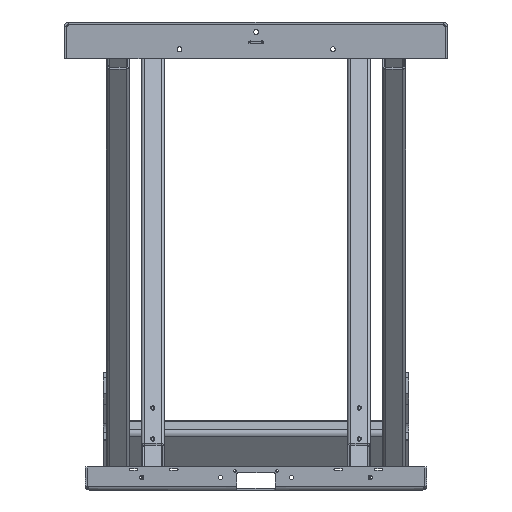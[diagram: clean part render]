
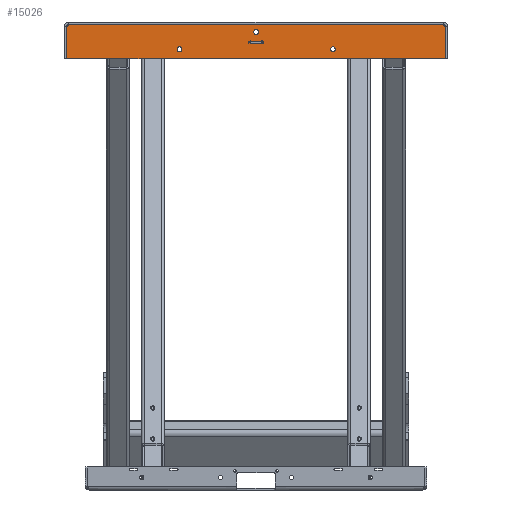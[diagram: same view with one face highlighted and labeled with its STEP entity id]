
A CAD part, front view. The second image highlights one B-rep face of the part: STEP entity #15026.
In plain terms, the highlighted planar face has unit normal (0, -1, 0) as drawn and (0, 0, 1) by its records, which use the part's own axes.
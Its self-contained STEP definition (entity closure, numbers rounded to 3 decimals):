
#661=PLANE('',#16513);
#1870=LINE('',#25478,#3164);
#1875=LINE('',#25491,#3169);
#1880=LINE('',#25507,#3174);
#1884=LINE('',#25523,#3178);
#1885=LINE('',#25536,#3179);
#1889=LINE('',#25542,#3183);
#1890=LINE('',#25545,#3184);
#1893=LINE('',#25550,#3187);
#1894=LINE('',#25553,#3188);
#1896=LINE('',#25556,#3190);
#3164=VECTOR('',#20575,2.736);
#3169=VECTOR('',#20590,2.736);
#3174=VECTOR('',#20609,26.636);
#3178=VECTOR('',#20631,26.636);
#3179=VECTOR('',#20646,11.314);
#3183=VECTOR('',#20652,971.);
#3184=VECTOR('',#20655,11.314);
#3187=VECTOR('',#20660,82.);
#3188=VECTOR('',#20663,82.);
#3190=VECTOR('',#20667,987.);
#3538=FACE_BOUND('',#5303,.T.);
#3539=FACE_BOUND('',#5304,.T.);
#3540=FACE_BOUND('',#5305,.T.);
#3541=FACE_BOUND('',#5306,.T.);
#4267=FACE_OUTER_BOUND('',#5302,.T.);
#5302=EDGE_LOOP('',(#13537,#13538,#13539,#13540,#13541,#13542));
#5303=EDGE_LOOP('',(#13543,#13544,#13545,#13546,#13547,#13548,#13549,#13550,
#13551,#13552,#13553,#13554,#13555,#13556,#13557,#13558));
#5304=EDGE_LOOP('',(#13559));
#5305=EDGE_LOOP('',(#13560));
#5306=EDGE_LOOP('',(#13561));
#6073=CIRCLE('',#16458,1.);
#6076=CIRCLE('',#16462,1.);
#6090=CIRCLE('',#16478,1.);
#6091=CIRCLE('',#16481,1.);
#6092=CIRCLE('',#16483,1.);
#6093=CIRCLE('',#16486,1.);
#6094=CIRCLE('',#16488,1.);
#6095=CIRCLE('',#16490,1.);
#6096=CIRCLE('',#16493,1.);
#6097=CIRCLE('',#16495,1.);
#6098=CIRCLE('',#16497,1.);
#6099=CIRCLE('',#16499,1.);
#6100=CIRCLE('',#16502,6.25);
#6101=CIRCLE('',#16504,6.25);
#6102=CIRCLE('',#16506,6.25);
#7418=VERTEX_POINT('',#25410);
#7419=VERTEX_POINT('',#25411);
#7423=VERTEX_POINT('',#25421);
#7446=VERTEX_POINT('',#25471);
#7447=VERTEX_POINT('',#25472);
#7448=VERTEX_POINT('',#25477);
#7449=VERTEX_POINT('',#25481);
#7450=VERTEX_POINT('',#25485);
#7451=VERTEX_POINT('',#25489);
#7452=VERTEX_POINT('',#25493);
#7453=VERTEX_POINT('',#25497);
#7454=VERTEX_POINT('',#25501);
#7455=VERTEX_POINT('',#25505);
#7456=VERTEX_POINT('',#25509);
#7457=VERTEX_POINT('',#25515);
#7458=VERTEX_POINT('',#25517);
#7459=VERTEX_POINT('',#25525);
#7460=VERTEX_POINT('',#25528);
#7461=VERTEX_POINT('',#25531);
#7462=VERTEX_POINT('',#25534);
#7463=VERTEX_POINT('',#25535);
#7464=VERTEX_POINT('',#25540);
#7465=VERTEX_POINT('',#25544);
#7466=VERTEX_POINT('',#25548);
#7467=VERTEX_POINT('',#25552);
#9457=EDGE_CURVE('',#7418,#7419,#6073,.T.);
#9463=EDGE_CURVE('',#7418,#7423,#6076,.T.);
#9487=EDGE_CURVE('',#7446,#7447,#6090,.T.);
#9490=EDGE_CURVE('',#7448,#7447,#1870,.T.);
#9492=EDGE_CURVE('',#7448,#7449,#6091,.T.);
#9495=EDGE_CURVE('',#7450,#7423,#6092,.T.);
#9497=EDGE_CURVE('',#7450,#7451,#1875,.T.);
#9498=EDGE_CURVE('',#7452,#7451,#6093,.T.);
#9501=EDGE_CURVE('',#7452,#7453,#6094,.T.);
#9503=EDGE_CURVE('',#7454,#7453,#6095,.T.);
#9505=EDGE_CURVE('',#7454,#7455,#1880,.T.);
#9506=EDGE_CURVE('',#7456,#7455,#6096,.T.);
#9508=EDGE_CURVE('',#7456,#7449,#6097,.T.);
#9510=EDGE_CURVE('',#7457,#7458,#6098,.T.);
#9512=EDGE_CURVE('',#7446,#7458,#6099,.T.);
#9513=EDGE_CURVE('',#7457,#7419,#1884,.T.);
#9514=EDGE_CURVE('',#7459,#7459,#6100,.T.);
#9515=EDGE_CURVE('',#7460,#7460,#6101,.T.);
#9516=EDGE_CURVE('',#7461,#7461,#6102,.T.);
#9517=EDGE_CURVE('',#7462,#7463,#1885,.T.);
#9521=EDGE_CURVE('',#7464,#7462,#1889,.T.);
#9522=EDGE_CURVE('',#7465,#7464,#1890,.T.);
#9525=EDGE_CURVE('',#7466,#7465,#1893,.T.);
#9526=EDGE_CURVE('',#7463,#7467,#1894,.T.);
#9528=EDGE_CURVE('',#7467,#7466,#1896,.T.);
#13537=ORIENTED_EDGE('',*,*,#9517,.F.);
#13538=ORIENTED_EDGE('',*,*,#9521,.F.);
#13539=ORIENTED_EDGE('',*,*,#9522,.F.);
#13540=ORIENTED_EDGE('',*,*,#9525,.F.);
#13541=ORIENTED_EDGE('',*,*,#9528,.F.);
#13542=ORIENTED_EDGE('',*,*,#9526,.F.);
#13543=ORIENTED_EDGE('',*,*,#9457,.F.);
#13544=ORIENTED_EDGE('',*,*,#9463,.T.);
#13545=ORIENTED_EDGE('',*,*,#9495,.F.);
#13546=ORIENTED_EDGE('',*,*,#9497,.T.);
#13547=ORIENTED_EDGE('',*,*,#9498,.F.);
#13548=ORIENTED_EDGE('',*,*,#9501,.T.);
#13549=ORIENTED_EDGE('',*,*,#9503,.F.);
#13550=ORIENTED_EDGE('',*,*,#9505,.T.);
#13551=ORIENTED_EDGE('',*,*,#9506,.F.);
#13552=ORIENTED_EDGE('',*,*,#9508,.T.);
#13553=ORIENTED_EDGE('',*,*,#9492,.F.);
#13554=ORIENTED_EDGE('',*,*,#9490,.T.);
#13555=ORIENTED_EDGE('',*,*,#9487,.F.);
#13556=ORIENTED_EDGE('',*,*,#9512,.T.);
#13557=ORIENTED_EDGE('',*,*,#9510,.F.);
#13558=ORIENTED_EDGE('',*,*,#9513,.T.);
#13559=ORIENTED_EDGE('',*,*,#9514,.T.);
#13560=ORIENTED_EDGE('',*,*,#9515,.T.);
#13561=ORIENTED_EDGE('',*,*,#9516,.T.);
#15026=ADVANCED_FACE('',(#4267,#3538,#3539,#3540,#3541),#661,.T.);
#16458=AXIS2_PLACEMENT_3D('',#25412,#20516,#20517);
#16462=AXIS2_PLACEMENT_3D('',#25423,#20527,#20528);
#16478=AXIS2_PLACEMENT_3D('',#25473,#20569,#20570);
#16481=AXIS2_PLACEMENT_3D('',#25482,#20579,#20580);
#16483=AXIS2_PLACEMENT_3D('',#25487,#20585,#20586);
#16486=AXIS2_PLACEMENT_3D('',#25494,#20593,#20594);
#16488=AXIS2_PLACEMENT_3D('',#25499,#20599,#20600);
#16490=AXIS2_PLACEMENT_3D('',#25503,#20604,#20605);
#16493=AXIS2_PLACEMENT_3D('',#25510,#20612,#20613);
#16495=AXIS2_PLACEMENT_3D('',#25513,#20617,#20618);
#16497=AXIS2_PLACEMENT_3D('',#25518,#20622,#20623);
#16499=AXIS2_PLACEMENT_3D('',#25521,#20627,#20628);
#16502=AXIS2_PLACEMENT_3D('',#25526,#20634,#20635);
#16504=AXIS2_PLACEMENT_3D('',#25529,#20638,#20639);
#16506=AXIS2_PLACEMENT_3D('',#25532,#20642,#20643);
#16513=AXIS2_PLACEMENT_3D('',#25557,#20668,#20669);
#20516=DIRECTION('center_axis',(0.,0.,-1.));
#20517=DIRECTION('ref_axis',(0.5,-0.866,0.));
#20527=DIRECTION('center_axis',(0.,0.,-1.));
#20528=DIRECTION('ref_axis',(-1.,0.,0.));
#20569=DIRECTION('center_axis',(0.,0.,-1.));
#20570=DIRECTION('ref_axis',(0.866,0.5,0.));
#20575=DIRECTION('',(0.,1.,0.));
#20579=DIRECTION('center_axis',(0.,0.,-1.));
#20580=DIRECTION('ref_axis',(0.866,-0.5,0.));
#20585=DIRECTION('center_axis',(0.,0.,-1.));
#20586=DIRECTION('ref_axis',(-0.866,0.5,0.));
#20590=DIRECTION('',(0.,-1.,0.));
#20593=DIRECTION('center_axis',(0.,0.,-1.));
#20594=DIRECTION('ref_axis',(-0.866,-0.5,0.));
#20599=DIRECTION('center_axis',(0.,0.,-1.));
#20600=DIRECTION('ref_axis',(-1.,0.,0.));
#20604=DIRECTION('center_axis',(0.,0.,-1.));
#20605=DIRECTION('ref_axis',(0.5,0.866,0.));
#20609=DIRECTION('',(-1.,0.,0.));
#20612=DIRECTION('center_axis',(0.,0.,-1.));
#20613=DIRECTION('ref_axis',(-0.5,0.866,0.));
#20617=DIRECTION('center_axis',(0.,0.,-1.));
#20618=DIRECTION('ref_axis',(-1.,0.,0.));
#20622=DIRECTION('center_axis',(0.,0.,-1.));
#20623=DIRECTION('ref_axis',(-0.5,-0.866,0.));
#20627=DIRECTION('center_axis',(0.,0.,-1.));
#20628=DIRECTION('ref_axis',(-1.,0.,0.));
#20631=DIRECTION('',(1.,0.,0.));
#20634=DIRECTION('center_axis',(0.,0.,-1.));
#20635=DIRECTION('ref_axis',(1.,0.,0.));
#20638=DIRECTION('center_axis',(0.,0.,-1.));
#20639=DIRECTION('ref_axis',(1.,0.,0.));
#20642=DIRECTION('center_axis',(0.,0.,-1.));
#20643=DIRECTION('ref_axis',(1.,0.,0.));
#20646=DIRECTION('',(0.707,-0.707,0.));
#20652=DIRECTION('',(1.,0.,0.));
#20655=DIRECTION('',(0.707,0.707,0.));
#20660=DIRECTION('',(0.,1.,0.));
#20663=DIRECTION('',(0.,-1.,0.));
#20667=DIRECTION('',(-1.,0.,0.));
#20668=DIRECTION('center_axis',(0.,0.,1.));
#20669=DIRECTION('ref_axis',(1.,0.,0.));
#25410=CARTESIAN_POINT('',(-479.316,46.6,6.));
#25411=CARTESIAN_POINT('',(-480.182,46.1,6.));
#25412=CARTESIAN_POINT('Origin',(-480.182,47.1,6.));
#25421=CARTESIAN_POINT('',(-477.95,45.234,6.));
#25423=CARTESIAN_POINT('Origin',(-478.45,46.1,6.));
#25471=CARTESIAN_POINT('',(-509.05,45.234,6.));
#25472=CARTESIAN_POINT('',(-508.55,44.368,6.));
#25473=CARTESIAN_POINT('Origin',(-509.55,44.368,6.));
#25477=CARTESIAN_POINT('',(-508.55,41.632,6.));
#25478=CARTESIAN_POINT('',(-508.55,45.55,6.));
#25481=CARTESIAN_POINT('',(-509.05,40.766,6.));
#25482=CARTESIAN_POINT('Origin',(-509.55,41.632,6.));
#25485=CARTESIAN_POINT('',(-478.45,44.368,6.));
#25487=CARTESIAN_POINT('Origin',(-477.45,44.368,6.));
#25489=CARTESIAN_POINT('',(-478.45,41.632,6.));
#25491=CARTESIAN_POINT('',(-478.45,42.45,6.));
#25493=CARTESIAN_POINT('',(-477.95,40.766,6.));
#25494=CARTESIAN_POINT('Origin',(-477.45,41.632,6.));
#25497=CARTESIAN_POINT('',(-479.316,39.4,6.));
#25499=CARTESIAN_POINT('Origin',(-478.45,39.9,6.));
#25501=CARTESIAN_POINT('',(-480.182,39.9,6.));
#25503=CARTESIAN_POINT('Origin',(-480.182,38.9,6.));
#25505=CARTESIAN_POINT('',(-506.818,39.9,6.));
#25507=CARTESIAN_POINT('',(-501.025,39.9,6.));
#25509=CARTESIAN_POINT('',(-507.684,39.4,6.));
#25510=CARTESIAN_POINT('Origin',(-506.818,38.9,6.));
#25513=CARTESIAN_POINT('Origin',(-508.55,39.9,6.));
#25515=CARTESIAN_POINT('',(-506.818,46.1,6.));
#25517=CARTESIAN_POINT('',(-507.684,46.6,6.));
#25518=CARTESIAN_POINT('Origin',(-506.818,47.1,6.));
#25521=CARTESIAN_POINT('Origin',(-508.55,46.1,6.));
#25523=CARTESIAN_POINT('',(-485.975,46.1,6.));
#25525=CARTESIAN_POINT('',(-287.25,25.,6.));
#25526=CARTESIAN_POINT('Origin',(-293.5,25.,6.));
#25528=CARTESIAN_POINT('',(-487.25,70.,6.));
#25529=CARTESIAN_POINT('Origin',(-493.5,70.,6.));
#25531=CARTESIAN_POINT('',(-687.25,25.,6.));
#25532=CARTESIAN_POINT('Origin',(-693.5,25.,6.));
#25534=CARTESIAN_POINT('',(-8.,90.,6.));
#25535=CARTESIAN_POINT('',(0.,82.,6.));
#25536=CARTESIAN_POINT('',(-116.125,198.125,6.));
#25540=CARTESIAN_POINT('',(-979.,90.,6.));
#25542=CARTESIAN_POINT('',(0.,90.,6.));
#25544=CARTESIAN_POINT('',(-987.,82.,6.));
#25545=CARTESIAN_POINT('',(-870.875,198.125,6.));
#25548=CARTESIAN_POINT('',(-987.,0.,6.));
#25550=CARTESIAN_POINT('',(-987.,90.,6.));
#25552=CARTESIAN_POINT('',(0.,0.,6.));
#25553=CARTESIAN_POINT('',(0.,0.,6.));
#25556=CARTESIAN_POINT('',(-987.,0.,6.));
#25557=CARTESIAN_POINT('Origin',(-493.5,45.,6.));
